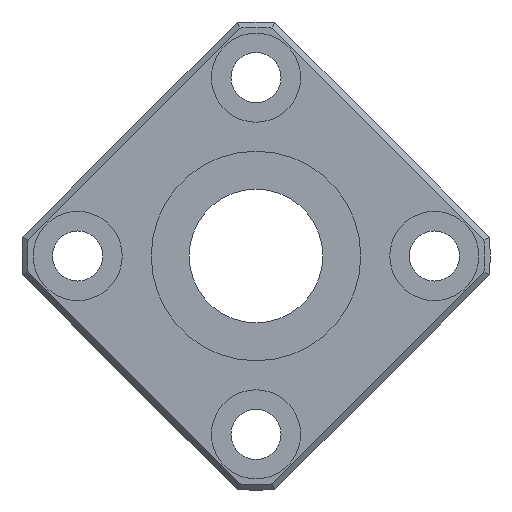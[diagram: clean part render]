
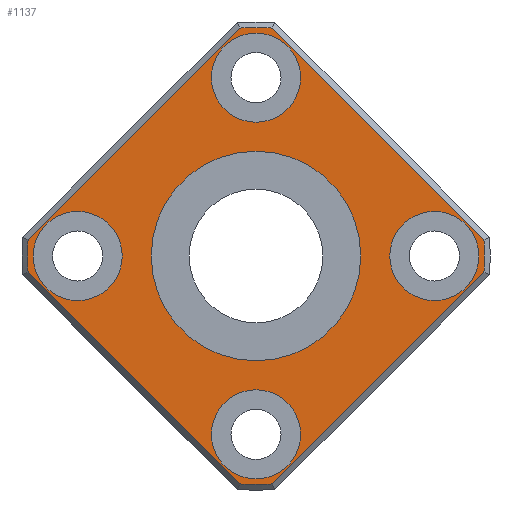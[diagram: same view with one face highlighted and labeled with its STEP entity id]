
A CAD part, left-side view. The second image highlights one B-rep face of the part: STEP entity #1137.
In plain terms, the highlighted planar face has unit normal (-1, 0, 0).
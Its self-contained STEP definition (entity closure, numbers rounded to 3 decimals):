
#713=CARTESIAN_POINT('',(0.0,1.473,-20.447));
#714=VERTEX_POINT('',#713);
#722=CARTESIAN_POINT('',(0.0,20.447,-1.473));
#723=VERTEX_POINT('',#722);
#724=CARTESIAN_POINT('',(0.0,1.473,-20.447));
#725=DIRECTION('',(0.0,0.707,0.707));
#726=VECTOR('',#725,26.833);
#727=LINE('',#724,#726);
#728=EDGE_CURVE('',#714,#723,#727,.T.);
#755=CARTESIAN_POINT('',(0.0,20.447,1.473));
#756=VERTEX_POINT('',#755);
#757=CARTESIAN_POINT('',(0.0,0.0,0.0));
#758=DIRECTION('',(1.0,0.0,0.0));
#759=DIRECTION('',(0.0,0.0,1.0));
#760=AXIS2_PLACEMENT_3D('',#757,#758,#759);
#761=CIRCLE('',#760,20.5);
#762=EDGE_CURVE('',#723,#756,#761,.T.);
#788=CARTESIAN_POINT('',(0.0,1.473,20.447));
#789=VERTEX_POINT('',#788);
#790=CARTESIAN_POINT('',(0.0,20.447,1.473));
#791=DIRECTION('',(0.0,-0.707,0.707));
#792=VECTOR('',#791,26.833);
#793=LINE('',#790,#792);
#794=EDGE_CURVE('',#756,#789,#793,.T.);
#821=CARTESIAN_POINT('',(0.0,-1.473,20.447));
#822=VERTEX_POINT('',#821);
#823=CARTESIAN_POINT('',(0.0,0.0,0.0));
#824=DIRECTION('',(1.0,0.0,0.0));
#825=DIRECTION('',(0.0,0.0,1.0));
#826=AXIS2_PLACEMENT_3D('',#823,#824,#825);
#827=CIRCLE('',#826,20.5);
#828=EDGE_CURVE('',#789,#822,#827,.T.);
#854=CARTESIAN_POINT('',(0.0,-20.447,1.473));
#855=VERTEX_POINT('',#854);
#856=CARTESIAN_POINT('',(0.0,-1.473,20.447));
#857=DIRECTION('',(0.0,-0.707,-0.707));
#858=VECTOR('',#857,26.833);
#859=LINE('',#856,#858);
#860=EDGE_CURVE('',#822,#855,#859,.T.);
#887=CARTESIAN_POINT('',(0.0,-20.447,-1.473));
#888=VERTEX_POINT('',#887);
#889=CARTESIAN_POINT('',(0.0,0.0,0.0));
#890=DIRECTION('',(1.0,0.0,0.0));
#891=DIRECTION('',(0.0,0.0,1.0));
#892=AXIS2_PLACEMENT_3D('',#889,#890,#891);
#893=CIRCLE('',#892,20.5);
#894=EDGE_CURVE('',#855,#888,#893,.T.);
#920=CARTESIAN_POINT('',(0.0,-1.473,-20.447));
#921=VERTEX_POINT('',#920);
#922=CARTESIAN_POINT('',(0.0,-20.447,-1.473));
#923=DIRECTION('',(0.0,0.707,-0.707));
#924=VECTOR('',#923,26.833);
#925=LINE('',#922,#924);
#926=EDGE_CURVE('',#888,#921,#925,.T.);
#951=CARTESIAN_POINT('',(0.0,0.0,0.0));
#952=DIRECTION('',(1.0,0.0,0.0));
#953=DIRECTION('',(0.0,0.0,-1.0));
#954=AXIS2_PLACEMENT_3D('',#951,#952,#953);
#955=CIRCLE('',#954,20.5);
#956=EDGE_CURVE('',#921,#714,#955,.T.);
#1067=CARTESIAN_POINT('',(0.0,0.0,9.95));
#1068=DIRECTION('',(-1.0,0.0,0.0));
#1069=DIRECTION('',(0.0,0.0,1.0));
#1070=AXIS2_PLACEMENT_3D('',#1067,#1068,#1069);
#1071=PLANE('',#1070);
#1072=ORIENTED_EDGE('',*,*,#728,.F.);
#1073=ORIENTED_EDGE('',*,*,#956,.F.);
#1074=ORIENTED_EDGE('',*,*,#926,.F.);
#1075=ORIENTED_EDGE('',*,*,#894,.F.);
#1076=ORIENTED_EDGE('',*,*,#860,.F.);
#1077=ORIENTED_EDGE('',*,*,#828,.F.);
#1078=ORIENTED_EDGE('',*,*,#794,.F.);
#1079=ORIENTED_EDGE('',*,*,#762,.F.);
#1080=EDGE_LOOP('',(#1072,#1073,#1074,#1075,#1076,#1077,#1078,#1079));
#1081=FACE_OUTER_BOUND('',#1080,.T.);
#1082=CARTESIAN_POINT('',(0.0,0.0,9.4));
#1083=VERTEX_POINT('',#1082);
#1084=CARTESIAN_POINT('',(0.0,0.0,0.0));
#1085=DIRECTION('',(-1.0,0.0,0.0));
#1086=DIRECTION('',(0.0,0.0,1.0));
#1087=AXIS2_PLACEMENT_3D('',#1084,#1085,#1086);
#1088=CIRCLE('',#1087,9.4);
#1089=EDGE_CURVE('',#1083,#1083,#1088,.T.);
#1090=ORIENTED_EDGE('',*,*,#1089,.F.);
#1091=EDGE_LOOP('',(#1090));
#1092=FACE_BOUND('',#1091,.T.);
#1093=CARTESIAN_POINT('',(0.0,-12.,0.));
#1094=VERTEX_POINT('',#1093);
#1095=CARTESIAN_POINT('',(0.0,-16.0,0.));
#1096=DIRECTION('',(1.0,0.0,0.0));
#1097=DIRECTION('',(0.0,1.0,0.0));
#1098=AXIS2_PLACEMENT_3D('',#1095,#1096,#1097);
#1099=CIRCLE('',#1098,4.0);
#1100=EDGE_CURVE('',#1094,#1094,#1099,.T.);
#1101=ORIENTED_EDGE('',*,*,#1100,.T.);
#1102=EDGE_LOOP('',(#1101));
#1103=FACE_BOUND('',#1102,.T.);
#1104=CARTESIAN_POINT('',(0.0,20.0,0.));
#1105=VERTEX_POINT('',#1104);
#1106=CARTESIAN_POINT('',(0.0,16.0,0.));
#1107=DIRECTION('',(1.0,0.0,0.0));
#1108=DIRECTION('',(0.0,1.0,0.0));
#1109=AXIS2_PLACEMENT_3D('',#1106,#1107,#1108);
#1110=CIRCLE('',#1109,4.0);
#1111=EDGE_CURVE('',#1105,#1105,#1110,.T.);
#1112=ORIENTED_EDGE('',*,*,#1111,.T.);
#1113=EDGE_LOOP('',(#1112));
#1114=FACE_BOUND('',#1113,.T.);
#1115=CARTESIAN_POINT('',(0.0,4.,16.0));
#1116=VERTEX_POINT('',#1115);
#1117=CARTESIAN_POINT('',(0.0,0.,16.0));
#1118=DIRECTION('',(1.0,0.0,0.0));
#1119=DIRECTION('',(0.0,1.0,0.0));
#1120=AXIS2_PLACEMENT_3D('',#1117,#1118,#1119);
#1121=CIRCLE('',#1120,4.0);
#1122=EDGE_CURVE('',#1116,#1116,#1121,.T.);
#1123=ORIENTED_EDGE('',*,*,#1122,.T.);
#1124=EDGE_LOOP('',(#1123));
#1125=FACE_BOUND('',#1124,.T.);
#1126=CARTESIAN_POINT('',(0.0,4.,-16.0));
#1127=VERTEX_POINT('',#1126);
#1128=CARTESIAN_POINT('',(0.0,0.,-16.0));
#1129=DIRECTION('',(1.0,0.0,0.0));
#1130=DIRECTION('',(0.0,1.0,0.0));
#1131=AXIS2_PLACEMENT_3D('',#1128,#1129,#1130);
#1132=CIRCLE('',#1131,4.0);
#1133=EDGE_CURVE('',#1127,#1127,#1132,.T.);
#1134=ORIENTED_EDGE('',*,*,#1133,.T.);
#1135=EDGE_LOOP('',(#1134));
#1136=FACE_BOUND('',#1135,.T.);
#1137=ADVANCED_FACE('',(#1081,#1092,#1103,#1114,#1125,#1136),#1071,.T.);
